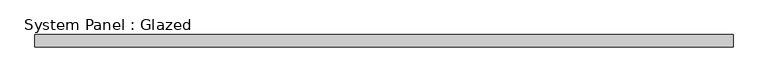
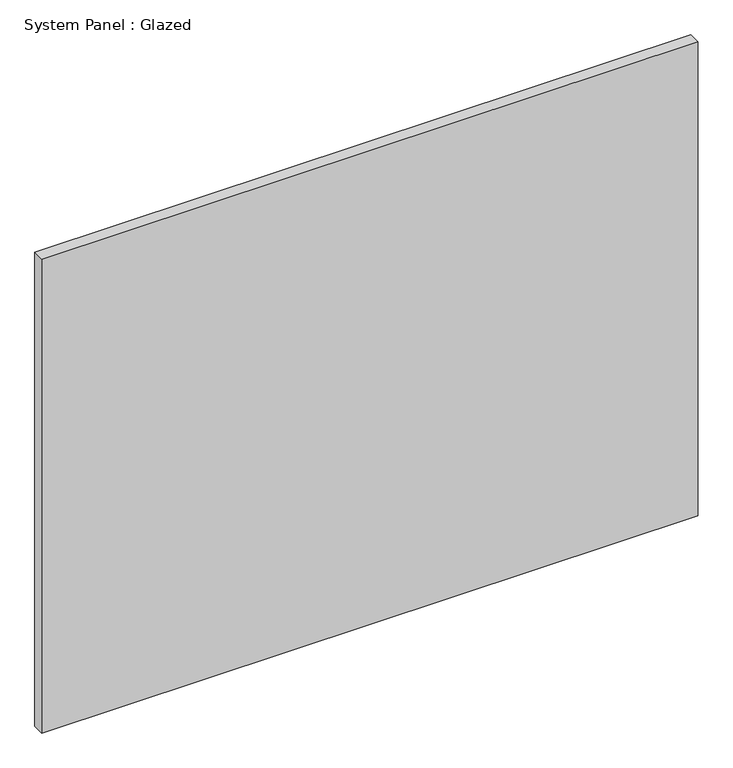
"""IFC4 building model written with IfcOpenShell, lengths in millimetres: plate geometry, System Panel : Glazed."""

from ifc_helpers import new_model, si_unit, origin, origin_with_axes, place, context, project, spatial, polyline, outline, extrude, source, transform, mapped, element, save


def system_panel_glazed_46d9e1d9(model_context):
    return source(origin(), model_context, "Body", "SweptSolid", [
        extrude(outline(polyline([(704.0833333, -49.5), (-704.0833333, -49.5), (-704.0833333, -24.5), (704.0833333, -24.5), (704.0833333, -49.5)])), origin_with_axes(), (0.0, 0.0, 1.0), 1075.0),
    ])


if __name__ == "__main__":
    model = new_model("IFC4")
    model_context = context("Model", 3, world=origin())
    ifc_project = project(units=[si_unit("LENGTHUNIT", "METRE", prefix="MILLI")], contexts=[model_context])
    site = spatial("IfcSite", under=ifc_project)
    building = spatial("IfcBuilding", under=site)
    placement = place(None, origin())
    system_panel_glazed_shape = system_panel_glazed_46d9e1d9(model_context)
    element("IfcPlate", 1, ObjectType="System Panel : Glazed", at=placement, inside=building, context=model_context, shape_type="MappedRepresentation", body=[
        mapped(system_panel_glazed_shape, transform((0.0, 0.0, 0.0), x_axis=(1.0, 0.0, 0.0), y_axis=(0.0, 1.0, 0.0), z_axis=(0.0, 0.0, 1.0))),
    ])
    save(model, "model.ifc")
